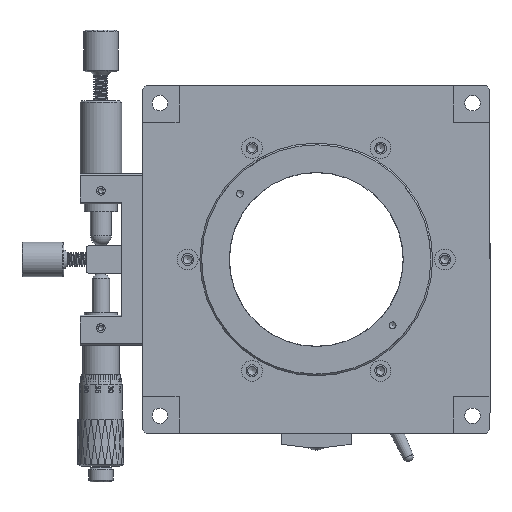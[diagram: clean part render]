
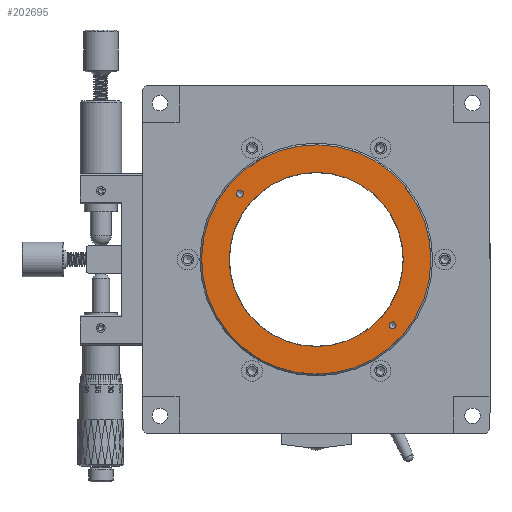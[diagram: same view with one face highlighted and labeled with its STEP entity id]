
A CAD part, front view. The second image highlights one B-rep face of the part: STEP entity #202695.
In plain terms, the highlighted planar face has unit normal (0, -1, 0).
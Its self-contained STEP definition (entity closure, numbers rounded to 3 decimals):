
#2185 = VERTEX_POINT ( 'NONE', #177379 ) ;
#21784 = ORIENTED_EDGE ( 'NONE', *, *, #123118, .F. ) ;
#31677 = EDGE_CURVE ( 'NONE', #138251, #138251, #139802, .T. ) ;
#35902 = FACE_OUTER_BOUND ( 'NONE', #219494, .T. ) ;
#43553 = CIRCLE ( 'NONE', #127728, 25.05 ) ;
#45987 = CIRCLE ( 'NONE', #188555, 1. ) ;
#52084 = CARTESIAN_POINT ( 'NONE',  ( -21.955, 0.4, 18.947 ) ) ;
#52624 = CARTESIAN_POINT ( 'NONE',  ( -21.198, 0.4, 18.293 ) ) ;
#57217 = CARTESIAN_POINT ( 'NONE',  ( 0., 0.4, 0. ) ) ;
#62520 = DIRECTION ( 'NONE',  ( 0., 1., 0. ) ) ;
#69955 = EDGE_CURVE ( 'NONE', #116317, #116317, #43553, .T. ) ;
#80079 = EDGE_LOOP ( 'NONE', ( #184855 ) ) ;
#80818 = CARTESIAN_POINT ( 'NONE',  ( 0., 0.4, 0. ) ) ;
#87437 = FACE_BOUND ( 'NONE', #171817, .T. ) ;
#90315 = VERTEX_POINT ( 'NONE', #52624 ) ;
#105763 = FACE_BOUND ( 'NONE', #80079, .T. ) ;
#107838 = DIRECTION ( 'NONE',  ( 0., -1., 0. ) ) ;
#111396 = DIRECTION ( 'NONE',  ( 0., 1., 0. ) ) ;
#116317 = VERTEX_POINT ( 'NONE', #186167 ) ;
#118970 = AXIS2_PLACEMENT_3D ( 'NONE', #165223, #111396, #200705 ) ;
#121962 = DIRECTION ( 'NONE',  ( 0., -1., 0. ) ) ;
#123118 = EDGE_CURVE ( 'NONE', #90315, #90315, #180973, .T. ) ;
#123676 = EDGE_CURVE ( 'NONE', #2185, #2185, #45987, .T. ) ;
#127087 = DIRECTION ( 'NONE',  ( 0., 1., 0. ) ) ;
#127728 = AXIS2_PLACEMENT_3D ( 'NONE', #57217, #127087, #148803 ) ;
#138251 = VERTEX_POINT ( 'NONE', #159891 ) ;
#139802 = CIRCLE ( 'NONE', #205707, 33. ) ;
#143337 = DIRECTION ( 'NONE',  ( 0.757, 0., -0.653 ) ) ;
#148803 = DIRECTION ( 'NONE',  ( -0.757, 0., 0.653 ) ) ;
#151852 = DIRECTION ( 'NONE',  ( -0.757, 0., 0.653 ) ) ;
#159891 = CARTESIAN_POINT ( 'NONE',  ( -24.983, 0.4, 21.56 ) ) ;
#161630 = CARTESIAN_POINT ( 'NONE',  ( 21.955, 0.4, -18.947 ) ) ;
#165223 = CARTESIAN_POINT ( 'NONE',  ( 0., 0.4, 0. ) ) ;
#171817 = EDGE_LOOP ( 'NONE', ( #221296 ) ) ;
#175620 = PLANE ( 'NONE',  #118970 ) ;
#177379 = CARTESIAN_POINT ( 'NONE',  ( 22.712, 0.4, -19.6 ) ) ;
#180973 = CIRCLE ( 'NONE', #199287, 1. ) ;
#184855 = ORIENTED_EDGE ( 'NONE', *, *, #69955, .T. ) ;
#186167 = CARTESIAN_POINT ( 'NONE',  ( -18.965, 0.4, 16.366 ) ) ;
#188555 = AXIS2_PLACEMENT_3D ( 'NONE', #161630, #107838, #143337 ) ;
#191808 = DIRECTION ( 'NONE',  ( 0.757, 0., -0.653 ) ) ;
#192816 = FACE_BOUND ( 'NONE', #222748, .T. ) ;
#198667 = ORIENTED_EDGE ( 'NONE', *, *, #31677, .F. ) ;
#199287 = AXIS2_PLACEMENT_3D ( 'NONE', #52084, #121962, #191808 ) ;
#200705 = DIRECTION ( 'NONE',  ( -0.757, 0., 0.653 ) ) ;
#202695 = ADVANCED_FACE ( 'NONE', ( #87437, #192816, #35902, #105763 ), #175620, .F. ) ;
#205707 = AXIS2_PLACEMENT_3D ( 'NONE', #80818, #62520, #151852 ) ;
#219494 = EDGE_LOOP ( 'NONE', ( #198667 ) ) ;
#221296 = ORIENTED_EDGE ( 'NONE', *, *, #123676, .F. ) ;
#222748 = EDGE_LOOP ( 'NONE', ( #21784 ) ) ;
